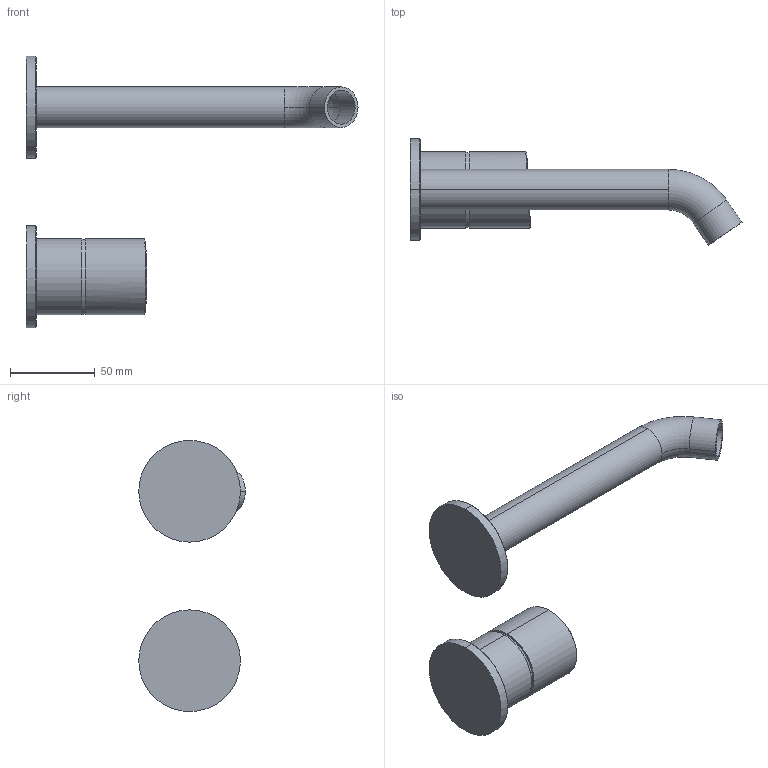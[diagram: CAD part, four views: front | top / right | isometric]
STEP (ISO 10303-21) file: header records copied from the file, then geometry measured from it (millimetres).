
FILE_DESCRIPTION (( 'STEP AP203' ), '1' );
FILE_NAME ('AZ 19TB.STEP', '2019-02-12T16:41:04', ( '' ), ( '' ), 'SwSTEP 2.0', 'SolidWorks 2019', '' );
FILE_SCHEMA (( 'CONFIG_CONTROL_DESIGN' ));
Length unit declared in the file: millimetre
Products named in the file (1): AZ 19TB
Bounding box: 195.89 x 62.8 x 160 mm (x, y, z)
Volume: 161919.2 mm3; surface area: 49091.5 mm2
Topology: 2 solids, 2 shells, 36 faces, 74 edges, 46 vertices
Faces by surface type: cylinder 16, plane 8, cone 6, torus 4, bspline 2
Entity records: 2001 total; most frequent: CARTESIAN_POINT 1143, DIRECTION 180, ORIENTED_EDGE 148, AXIS2_PLACEMENT_3D 79, EDGE_CURVE 74, VERTEX_POINT 46, CIRCLE 44, EDGE_LOOP 40
